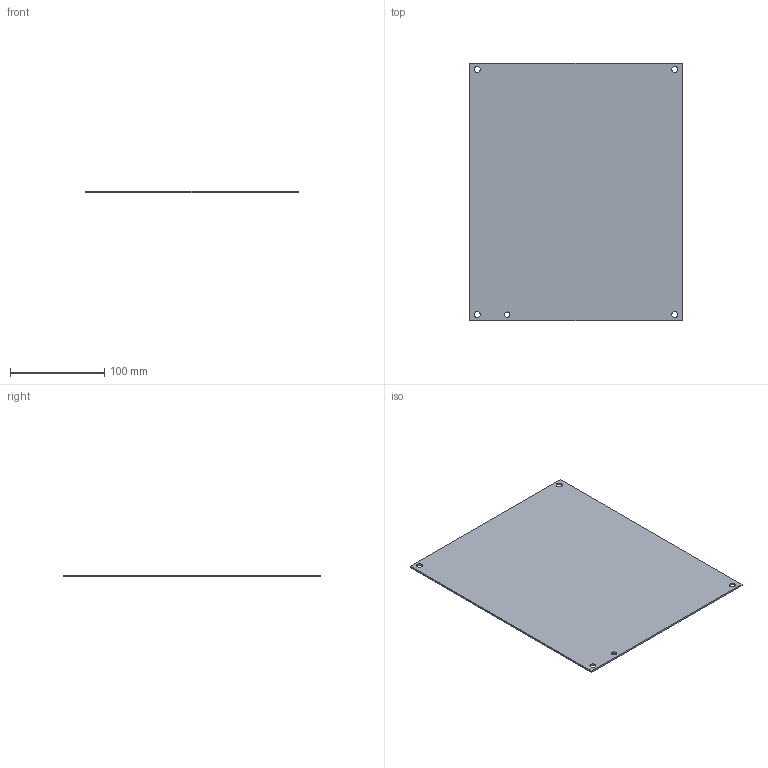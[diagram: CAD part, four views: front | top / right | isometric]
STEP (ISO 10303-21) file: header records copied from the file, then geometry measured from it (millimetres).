
FILE_DESCRIPTION (( 'STEP AP203' ), '1' );
FILE_NAME ('a12p10.STEP', '2008-12-15T15:01:31', ( '' ), ( '' ), 'SwSTEP 2.0', 'SolidWorks 2007', '' );
FILE_SCHEMA (( 'CONFIG_CONTROL_DESIGN' ));
Length unit declared in the file: inch
Products named in the file (1): a12p10
Bounding box: 225.55 x 273.05 x 1.83 mm (x, y, z)
Volume: 112354.1 mm3; surface area: 124873.6 mm2
Topology: 1 solids, 1 shells, 16 faces, 42 edges, 28 vertices
Faces by surface type: cylinder 10, plane 6
Entity records: 605 total; most frequent: DIRECTION 96, CARTESIAN_POINT 87, ORIENTED_EDGE 84, EDGE_CURVE 42, AXIS2_PLACEMENT_3D 37, VERTEX_POINT 28, EDGE_LOOP 26, VECTOR 22
